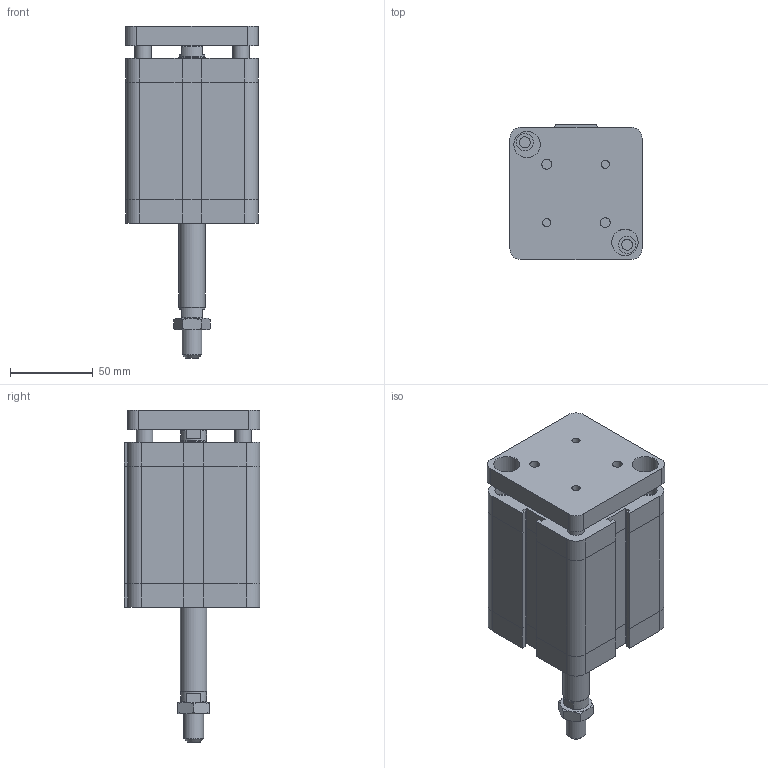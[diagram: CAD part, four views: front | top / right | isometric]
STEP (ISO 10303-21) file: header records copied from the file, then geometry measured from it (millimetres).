
FILE_DESCRIPTION((''),'2;1');
FILE_NAME('I:\Area Tecnica\Disegni\VARIE-3D\Componenti\EUROPE\15##_###_####_09_#\1581_63_0050_09_1.iam.stp','2009-04-20T15:47:53',(''),(''),'Autodesk Inventor 2009','Autodesk Inventor 2009','');
FILE_SCHEMA(('AUTOMOTIVE_DESIGN { 1 0 10303 214 1 1 1 1 }'));
Length unit declared in the file: millimetre
Products named in the file (4): 1581_63_0050_09_1; 1581_63_0050_08_1_C; 1561_63_0050_09_1_SA; DBFM12
Assembly tree (3 placements, depth 2):
  1581_63_0050_09_1
    1581_63_0050_08_1_C
    1561_63_0050_09_1_SA
    DBFM12
Bounding box: 80 x 82 x 201 mm (x, y, z)
Volume: 705359 mm3; surface area: 90381.9 mm2
Topology: 3 solids, 3 shells, 209 faces, 470 edges, 287 vertices
Faces by surface type: plane 120, bspline 45, cylinder 23, cone 21
Full cylindrical faces by diameter (mm): 10 x2, 10.8 x1, 12 x1, 15.6 x2, 16 x1
Entity records: 5963 total; most frequent: CARTESIAN_POINT 1453, DIRECTION 838, ORIENTED_EDGE 834, EDGE_CURVE 417, AXIS2_PLACEMENT_3D 282, EDGE_LOOP 282, VECTOR 274, LINE 274
